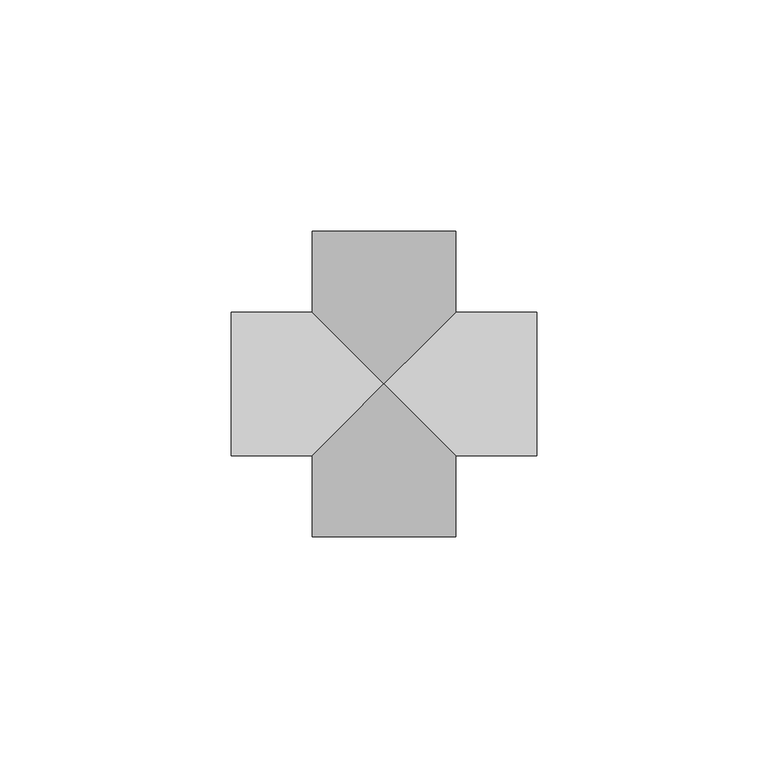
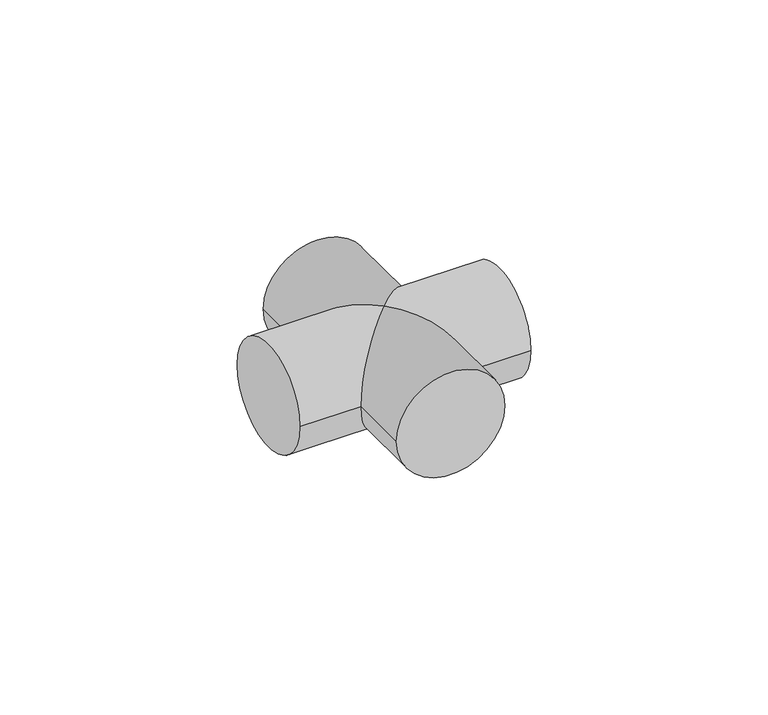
"""IFC4 building model written with IfcOpenShell, lengths in millimetres: pipe fitting geometry, 01051068 : Cruzetas."""

from ifc_helpers import new_model, si_unit, frame, origin, place, context, project, spatial, circle_curve, ellipse_curve, source, transform, mapped, element, save
from ifc_brep_helpers import plane_surface, cylinder_surface, advanced_brep


def pipe_fitting_d1637ec4(model_context):
    return source(origin(), model_context, "Body", "AdvancedBrep", [
        advanced_brep(
        [(-15.5, 33.0, 0.0), (15.5, 33.0, 0.0), (-15.5, -33.0, 0.0), (15.5, -33.0, 0.0), (-15.5, 15.5, 0.0), (0.0, 0.0, 15.5), (15.5, 15.5, 0.0), (15.5, -15.5, 0.0), (-15.5, -15.5, 0.0), (0.0, 0.0, -15.5), (33.0, 15.5, 0.0), (33.0, -15.5, 0.0), (-33.0, 15.5, 0.0), (-33.0, -15.5, 0.0)],
        [
            (0, 1, circle_curve(frame((0.0, 33.0, 0.0), z_axis=(0.0, 1.0, 0.0), x_axis=(1.0, 0.0, 0.0)), 15.5)),
            (1, 0, circle_curve(frame((0.0, 33.0, 0.0), z_axis=(0.0, 1.0, 0.0), x_axis=(1.0, 0.0, 0.0)), 15.5)),
            (2, 3, circle_curve(frame((0.0, -33.0, 0.0), z_axis=(0.0, -1.0, 0.0), x_axis=(1.0, 0.0, 0.0)), 15.5)),
            (3, 2, circle_curve(frame((0.0, -33.0, 0.0), z_axis=(0.0, -1.0, 0.0), x_axis=(1.0, 0.0, 0.0)), 15.5)),
            (0, 4),
            (4, 5, ellipse_curve(frame((0.0, 0.0, 0.0), z_axis=(0.7071067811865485, 0.7071067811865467, 0.0), x_axis=(-0.7071067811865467, 0.7071067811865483, 0.0)), 21.9203102, 15.5)),
            (5, 6, ellipse_curve(frame((0.0, 0.0, 0.0), z_axis=(-0.7071067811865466, 0.7071067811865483, 0.0), x_axis=(0.7071067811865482, 0.7071067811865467, 0.0)), 21.9203102, 15.5)),
            (6, 1),
            (3, 7),
            (7, 5, ellipse_curve(frame((0.0, 0.0, 0.0), z_axis=(-0.7071067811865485, -0.7071067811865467, 0.0), x_axis=(-0.7071067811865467, 0.7071067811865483, 0.0)), 21.9203102, 15.5)),
            (5, 8, ellipse_curve(frame((0.0, 0.0, 0.0), z_axis=(0.7071067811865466, -0.7071067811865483, 0.0), x_axis=(0.7071067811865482, 0.7071067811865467, 0.0)), 21.9203102, 15.5)),
            (8, 2),
            (6, 9, ellipse_curve(frame((0.0, 0.0, 0.0), z_axis=(-0.7071067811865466, 0.7071067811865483, 0.0), x_axis=(0.7071067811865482, 0.7071067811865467, 0.0)), 21.9203102, 15.5)),
            (9, 4, ellipse_curve(frame((0.0, 0.0, 0.0), z_axis=(0.7071067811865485, 0.7071067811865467, 0.0), x_axis=(-0.7071067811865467, 0.7071067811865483, 0.0)), 21.9203102, 15.5)),
            (8, 9, ellipse_curve(frame((0.0, 0.0, 0.0), z_axis=(0.7071067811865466, -0.7071067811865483, 0.0), x_axis=(0.7071067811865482, 0.7071067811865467, 0.0)), 21.9203102, 15.5)),
            (9, 7, ellipse_curve(frame((0.0, 0.0, 0.0), z_axis=(-0.7071067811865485, -0.7071067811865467, 0.0), x_axis=(-0.7071067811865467, 0.7071067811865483, 0.0)), 21.9203102, 15.5)),
            (10, 11, circle_curve(frame((33.0, 0.0, 0.0), z_axis=(1.0, 0.0, 0.0), x_axis=(0.0, -1.0, 0.0)), 15.5)),
            (11, 10, circle_curve(frame((33.0, 0.0, 0.0), z_axis=(1.0, 0.0, 0.0), x_axis=(0.0, -1.0, 0.0)), 15.5)),
            (12, 13, circle_curve(frame((-33.0, 0.0, 0.0), z_axis=(-1.0, 0.0, 0.0), x_axis=(0.0, -1.0, 0.0)), 15.5)),
            (13, 12, circle_curve(frame((-33.0, 0.0, 0.0), z_axis=(-1.0, 0.0, 0.0), x_axis=(0.0, -1.0, 0.0)), 15.5)),
            (10, 6),
            (7, 11),
            (13, 8),
            (4, 12),
        ],
        [
            plane_surface(frame((0.0, 33.0, 0.0), z_axis=(0.0, 1.0, 0.0), x_axis=(0.0, 0.0, 1.0))),
            plane_surface(frame((0.0, -33.0, 0.0), z_axis=(0.0, -1.0, 0.0), x_axis=(0.0, 0.0, 1.0))),
            cylinder_surface(frame((0.0, 33.0, 0.0), z_axis=(0.0, 1.0, 0.0), x_axis=(1.0, 0.0, 0.0)), 15.5),
            plane_surface(frame((33.0, 0.0, 0.0), z_axis=(1.0, 0.0, 0.0), x_axis=(0.0, 0.0, 1.0))),
            plane_surface(frame((-33.0, 0.0, 0.0), z_axis=(-1.0, 0.0, 0.0), x_axis=(0.0, 0.0, 1.0))),
            cylinder_surface(frame((33.0, 0.0, 0.0), z_axis=(1.0, 0.0, 0.0), x_axis=(0.0, -1.0, 0.0)), 15.5),
        ],
        [
            (0, [[1, 2]]),
            (1, [[3, 4]]),
            (2, [[-1, 5, 6, 7, 8]]),
            (2, [[-4, 9, 10, 11, 12]]),
            (2, [[-2, -8, 13, 14, -5]]),
            (2, [[-3, -12, 15, 16, -9]]),
            (3, [[17, 18]]),
            (4, [[19, 20]]),
            (5, [[-17, 21, -7, -10, 22]]),
            (5, [[-20, 23, -11, -6, 24]]),
            (5, [[-18, -22, -16, -13, -21]]),
            (5, [[-19, -24, -14, -15, -23]]),
        ],
    ),
    ])


if __name__ == "__main__":
    model = new_model("IFC4")
    model_context = context("Model", 3, world=origin())
    ifc_project = project(units=[si_unit("LENGTHUNIT", "METRE", prefix="MILLI")], contexts=[model_context])
    site = spatial("IfcSite", under=ifc_project)
    building = spatial("IfcBuilding", under=site)
    placement = place(None, origin())
    pipe_fitting_shape = pipe_fitting_d1637ec4(model_context)
    element("IfcPipeFitting", 1, ObjectType="01051068 : Cruzetas", at=placement, inside=building, context=model_context, shape_type="MappedRepresentation", body=[
        mapped(pipe_fitting_shape, transform((0.0, 0.0, 0.0), x_axis=(1.0, 0.0, 0.0), y_axis=(0.0, 1.0, 0.0), z_axis=(0.0, 0.0, 1.0))),
    ])
    save(model, "model.ifc")
